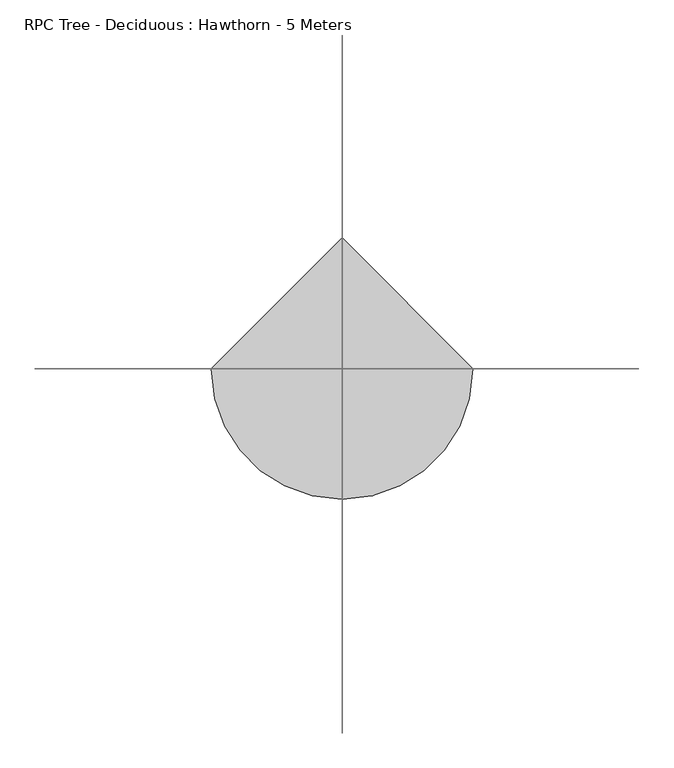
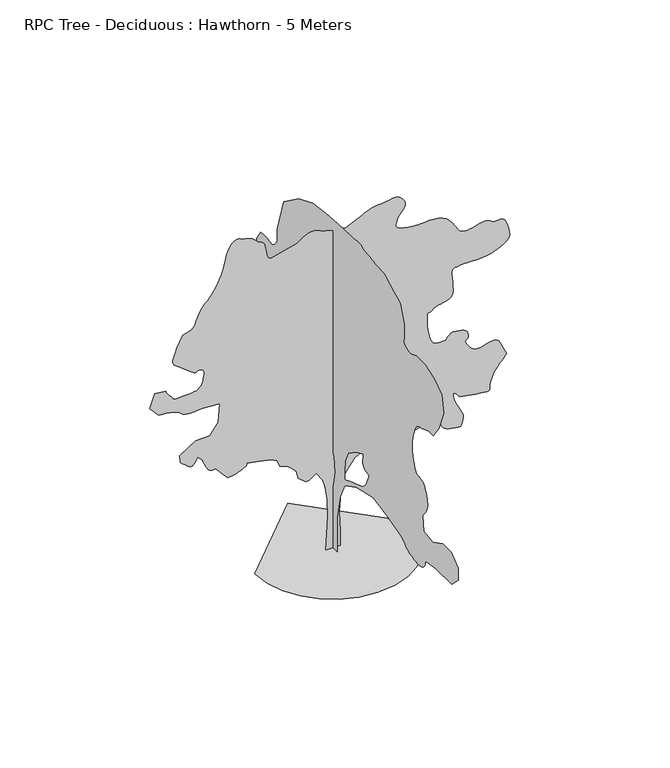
"""IFC4 building model written with IfcOpenShell, lengths in millimetres: geographic element geometry, RPC Tree - Deciduous : Hawthorn - 5 Meters."""

import ifcopenshell
import ifcopenshell.guid

model = None  # the IFC model being written
_history = None  # IfcOwnerHistory: only IFC2X3 demands one
_inside = {}  # id of a spatial element -> (the spatial element, [elements in it])
_under = {}  # id of a project, library or spatial element -> (it, [spatial elements below it])
_declared = {}  # id of a project -> (the project, [libraries it declares])
_typed = {}  # id of a type object -> (the type object, [elements of that type])
_made_of = {}  # id of a material, layer set ... -> (it, [elements and type objects made of it])


def new_model(schema):
    """Start an empty IFC model of exactly this schema.

    Asked for "IFC4X3", IfcOpenShell would pick the latest addendum, in which some entities
    have other attributes; the version numbers below select the first issue.
    IFC2X3 requires an IfcOwnerHistory on every rooted entity: one is made here for all.
    """
    global model, _history
    if schema == "IFC4X3":
        model = ifcopenshell.file(schema_version=(4, 3, 0, 0))
    else:
        model = ifcopenshell.file(schema=schema)
    _inside.clear()
    _under.clear()
    _declared.clear()
    _typed.clear()
    _made_of.clear()
    _history = None
    if model.schema == "IFC2X3":
        org = make("IfcOrganization", Name="unknown")
        user = make(
            "IfcPersonAndOrganization",
            ThePerson=make("IfcPerson", FamilyName="unknown"),
            TheOrganization=org,
        )
        app = make(
            "IfcApplication",
            ApplicationDeveloper=org,
            Version="unknown",
            ApplicationFullName="unknown",
            ApplicationIdentifier="unknown",
        )
        _history = make(
            "IfcOwnerHistory",
            OwningUser=user,
            OwningApplication=app,
            ChangeAction="ADDED",
            CreationDate=0,
        )
    return model


def make(cls, **values):
    """One entity of the class cls with the attributes given. An attribute that is None is left unset."""
    return model.create_entity(
        cls, **{name: value for name, value in values.items() if value is not None}
    )


def rooted(cls, **values):
    """An entity with a GlobalId (a new one), such as an element, a storey or a relation."""
    return make(cls, GlobalId=ifcopenshell.guid.new(), OwnerHistory=_history, **values)


def si_unit(unit_type, name, prefix=None):
    """IfcSIUnit, for example si_unit("LENGTHUNIT", "METRE", prefix="MILLI")."""
    return make("IfcSIUnit", UnitType=unit_type, Prefix=prefix, Name=name)


def assignment(units):
    """IfcUnitAssignment: the units of a project."""
    return None if units is None else make("IfcUnitAssignment", Units=units)


def point(xyz):
    """IfcCartesianPoint."""
    return None if xyz is None else make("IfcCartesianPoint", Coordinates=xyz)


def direction(xyz):
    """IfcDirection."""
    return None if xyz is None else make("IfcDirection", DirectionRatios=xyz)


def frame(location, z_axis=None, x_axis=None):
    """IfcAxis2Placement3D, a coordinate frame: its origin and axes. An axis left out is left unset."""
    return make(
        "IfcAxis2Placement3D",
        Location=point(location),
        Axis=direction(z_axis),
        RefDirection=direction(x_axis),
    )


def origin():
    """The frame at (0, 0, 0) with its axes left unset."""
    return frame((0.0, 0.0, 0.0))


def place(relative_to, where):
    """IfcLocalPlacement: puts the frame where relative to a parent placement (None: the world)."""
    return make(
        "IfcLocalPlacement", PlacementRelTo=relative_to, RelativePlacement=where
    )


def context(
    kind, dimensions, precision=None, world=None, true_north=None, identifier=None
):
    """IfcGeometricRepresentationContext, for example the 3D "Model" context."""
    return make(
        "IfcGeometricRepresentationContext",
        ContextIdentifier=identifier,
        ContextType=kind,
        CoordinateSpaceDimension=dimensions,
        Precision=precision,
        WorldCoordinateSystem=world,
        TrueNorth=true_north,
    )


def project(units=None, contexts=None):
    """IfcProject with its units and contexts."""
    return rooted(
        "IfcProject",
        Name="project",
        RepresentationContexts=contexts,
        UnitsInContext=assignment(units),
    )


def spatial(cls, under=None, at=None, **own):
    """A site, building, storey or space (cls), placed at a placement, below another one or the project."""
    s = rooted(cls, ObjectPlacement=at, **own)
    if under is not None:
        _under.setdefault(under.id(), (under, []))[1].append(s)
    return s


def point_list(points):
    """IfcCartesianPointList2D or 3D."""
    cls = (
        "IfcCartesianPointList2D" if len(points[0]) == 2 else "IfcCartesianPointList3D"
    )
    return make(cls, CoordList=points)


def triangles(points, corners, closed=None, point_numbers=None):
    """IfcTriangulatedFaceSet: each triangle names its three corners, points numbered from 1."""
    return make(
        "IfcTriangulatedFaceSet",
        Coordinates=point_list(points),
        Closed=closed,
        CoordIndex=corners,
        PnIndex=point_numbers,
    )


def shape(context_of_items, identifier, shape_type, items):
    """IfcShapeRepresentation: the items that make up one representation, for example the "Body"."""
    return make(
        "IfcShapeRepresentation",
        ContextOfItems=context_of_items,
        RepresentationIdentifier=identifier,
        RepresentationType=shape_type,
        Items=items,
    )


def source(mapping_origin, context_of_items, identifier, shape_type, items):
    """IfcRepresentationMap: a shape defined once, which mapped items show again and again."""
    return make(
        "IfcRepresentationMap",
        MappingOrigin=mapping_origin,
        MappedRepresentation=shape(context_of_items, identifier, shape_type, items),
    )


def transform(
    local_origin,
    x_axis=None,
    y_axis=None,
    z_axis=None,
    scale=None,
    scale2=None,
    scale3=None,
    uniform=True,
):
    """IfcCartesianTransformationOperator3D, or its non-uniform kind. x_axis, y_axis, z_axis: its Axis1, 2, 3."""
    if uniform:
        return make(
            "IfcCartesianTransformationOperator3D",
            Axis1=direction(x_axis),
            Axis2=direction(y_axis),
            LocalOrigin=point(local_origin),
            Scale=scale,
            Axis3=direction(z_axis),
        )
    return make(
        "IfcCartesianTransformationOperator3DnonUniform",
        Axis1=direction(x_axis),
        Axis2=direction(y_axis),
        LocalOrigin=point(local_origin),
        Scale=scale,
        Axis3=direction(z_axis),
        Scale2=scale2,
        Scale3=scale3,
    )


def mapped(mapping_source, mapping_target):
    """IfcMappedItem: shows the shape of a source again, moved by a transform."""
    return make(
        "IfcMappedItem", MappingSource=mapping_source, MappingTarget=mapping_target
    )


def made_of(thing, what):
    """Note that an element or type object is made of a material, layer set ...; save() writes the relation."""
    if what is not None:
        _made_of.setdefault(what.id(), (what, []))[1].append(thing)
    return thing


def element(
    cls,
    number,
    at=None,
    inside=None,
    cuts=None,
    type_object=None,
    material=None,
    context=None,
    identifier="Body",
    shape_type=None,
    held_by="IfcProductDefinitionShape",
    body=None,
    shapes=None,
    **own,
):
    """One element of the class cls, such as IfcWall. Its Tag is "e" and its number.

    at: its placement. inside: the storey or other place that contains it. cuts: it is an
    opening in that element (IfcRelVoidsElement). A single representation is given by context,
    identifier, shape_type and body (its items); several are given by shapes. held_by: the class
    of the entity that holds the representations. save() writes the other relations.
    """
    e = rooted(cls, Tag="e%d" % number, ObjectPlacement=at, **own)
    if body is not None:
        shapes = [shape(context, identifier, shape_type, body)]
    if shapes is not None:
        e.Representation = make(held_by, Representations=shapes)
    if inside is not None:
        _inside.setdefault(inside.id(), (inside, []))[1].append(e)
    if cuts is not None:
        rooted(
            "IfcRelVoidsElement", RelatingBuildingElement=cuts, RelatedOpeningElement=e
        )
    if type_object is not None:
        _typed.setdefault(type_object.id(), (type_object, []))[1].append(e)
    return made_of(e, material)


def aggregate(whole, parts):
    """IfcRelAggregates: a whole, such as a stair, and the parts it consists of."""
    return rooted("IfcRelAggregates", RelatingObject=whole, RelatedObjects=parts)


def save(model, path):
    """Write the relations noted so far, then the file.

    IfcRelAggregates (storeys below a building ...), IfcRelContainedInSpatialStructure (elements
    in a storey), IfcRelDefinesByType, IfcRelAssociatesMaterial and IfcRelDeclares: one each for
    every whole, place, type object, material and project.
    """
    for whole, parts in _under.values():
        aggregate(whole, parts)
    for where, things in _inside.values():
        rooted(
            "IfcRelContainedInSpatialStructure",
            RelatedElements=things,
            RelatingStructure=where,
        )
    for kind, things in _typed.values():
        rooted("IfcRelDefinesByType", RelatedObjects=things, RelatingType=kind)
    for what, things in _made_of.values():
        rooted("IfcRelAssociatesMaterial", RelatedObjects=things, RelatingMaterial=what)
    for by, libraries in _declared.values():
        rooted("IfcRelDeclares", RelatingContext=by, RelatedDefinitions=libraries)
    model.write(path)


def rpc_tree_deciduous_hawthorn_5_meters_4305f9dc(model_context):
    return source(origin(), model_context, "Body", "Tessellation", [
        triangles([(104.4180632, 0.000259, 0.0126693), (-101.1095624, 0.000259, 0.0126693), (-71.748096, 0.0002301, 484.4695201), (-79.0885864, 0.0002152, 734.0392794), (-108.4493942, 0.0002038, 924.8857698), (-137.8108651, 0.0001968, 1042.330636), (-233.2330929, 0.000189, 1174.4554928), (-328.6579914, 0.0001929, 1108.3922287), (-380.0396298, 0.0001933, 1101.0522697), (-482.8028704, 0.0001881, 1189.1354834), (-512.1644866, 0.0001811, 1306.5804222), (-614.9277271, 0.000175, 1409.3436264), (-739.7126249, 0.0001719, 1460.7252285), (-776.4142365, 0.0001667, 1548.8085148), (-857.1574911, 0.000164, 1592.8501579), (-1025.982288, 0.0001618, 1629.5516968), (-1194.8088289, 0.0001601, 1658.9116779), (-1193.4821657, 0.0001605, 1652.5566879), (-1193.6321566, 0.0001609, 1645.8150936), (-1196.7354555, 0.0001613, 1638.3033428), (-1204.2687893, 0.0001618, 1629.6367207), (-1217.7071405, 0.0001624, 1619.4283321), (-1238.5305061, 0.0001632, 1607.2950611), (-1268.2121246, 0.000164, 1592.8501579), (-1301.3170807, 0.0001649, 1578.8334263), (-1331.7269978, 0.0001655, 1567.8967392), (-1359.8886509, 0.000166, 1559.5300987), (-1386.2553555, 0.0001664, 1553.2168213), (-1411.2719971, 0.0001667, 1548.4451649), (-1435.3885483, 0.0001669, 1544.70019), (-1459.0586151, 0.0001671, 1541.4684105), (-1539.8017971, 0.0001618, 1629.5516968), (-1627.8850834, 0.0001557, 1732.314901), (-1645.1767605, 0.0001559, 1729.3649357), (-1662.4033253, 0.000156, 1727.5649002), (-1679.4983574, 0.000156, 1728.0815838), (-1696.414912, 0.0001557, 1732.0649162), (-1713.0649132, 0.0001552, 1740.6649727), (-1729.3816498, 0.0001544, 1755.0482517), (-1745.3315483, 0.0001531, 1776.3482597), (-1759.7815384, 0.0001516, 1800.6649441), (-1771.9149548, 0.0001503, 1823.4315777), (-1782.1149136, 0.000149, 1844.9148594), (-1790.7815357, 0.0001478, 1865.381488), (-1798.2982281, 0.0001466, 1885.0647343), (-1805.031538, 0.0001455, 1904.2481564), (-1811.3981552, 0.0001443, 1923.1647343), (-1877.4481934, 0.0001404, 1989.2313412), (-1921.4981209, 0.0001443, 1923.1647343), (-1929.4480717, 0.0001451, 1910.7647644), (-1937.9981312, 0.0001458, 1899.5314384), (-1947.6814064, 0.0001463, 1890.6148315), (-1959.1147202, 0.0001466, 1885.1481594), (-1972.8480389, 0.0001467, 1884.31478), (-1989.4813259, 0.0001464, 1889.2647686), (-2009.5814072, 0.0001457, 1901.1480549), (-2031.8479259, 0.0001447, 1917.9814751), (-2053.8813194, 0.0001436, 1936.1148159), (-2074.4812248, 0.0001425, 1954.1147346), (-2092.5312859, 0.0001415, 1970.564748), (-2106.8478539, 0.0001407, 1984.0646507), (-2116.2812897, 0.0001402, 1993.1979595), (-2119.6812275, 0.00014, 1996.5646145), (-2127.0145008, 0.0001338, 2099.3313068), (-1906.8147148, 0.0001255, 2238.797794), (-1708.6316082, 0.0001251, 2246.1310673), (-1591.1833992, 0.0001159, 2400.2809605), (-1569.1617783, 0.0001002, 2664.530674), (-1811.3981552, 9.88e-05, 2686.5473534), (-1863.1147659, 9.92e-05, 2680.4640038), (-1913.7481579, 9.95e-05, 2675.6805748), (-1962.1981075, 9.96e-05, 2673.4472809), (-2007.3813961, 9.95e-05, 2675.0806114), (-2048.1812313, 9.91e-05, 2681.8473495), (-2083.5312538, 9.83e-05, 2695.0305565), (-2112.3479542, 9.71e-05, 2715.9138748), (-2141.364497, 9.58e-05, 2738.2973923), (-2177.3144829, 9.47e-05, 2755.6640648), (-2219.0478367, 9.39e-05, 2768.8806999), (-2265.3977692, 9.33e-05, 2778.7472488), (-2315.2143505, 9.29e-05, 2786.0970909), (-2367.3476509, 9.26e-05, 2791.7973244), (-2420.6308811, 9.23e-05, 2796.647319), (-2545.4141075, 8.4e-05, 2936.1138062), (-2472.0142273, 7.26e-05, 3126.9634941), (-2325.2143215, 7.35e-05, 3112.2803787), (-2315.7310341, 7.45e-05, 3095.0137001), (-2305.9977619, 7.55e-05, 3077.9301498), (-2295.7476608, 7.65e-05, 3061.2468658), (-2284.714468, 7.75e-05, 3045.1304077), (-2272.6644768, 7.84e-05, 3029.7801819), (-2259.3311337, 7.92e-05, 3015.4136169), (-2244.4644539, 8e-05, 3002.1804131), (-2233.3144077, 8.08e-05, 2989.6971634), (-2228.0811516, 8.15e-05, 2977.8635834), (-2223.8644032, 8.21e-05, 2967.3136459), (-2215.7977444, 8.26e-05, 2958.6970207), (-2198.9977524, 8.3e-05, 2952.6470993), (-2168.5811497, 8.32e-05, 2949.7969826), (-2119.6812275, 8.31e-05, 2950.7972122), (-2065.4813381, 8.29e-05, 2953.94702), (-2021.2812744, 8.27e-05, 2957.0971184), (-1985.4314278, 8.25e-05, 2960.2303574), (-1956.2647488, 8.23e-05, 2963.3804558), (-1932.1147694, 8.22e-05, 2966.5302635), (-1911.281448, 8.2e-05, 2969.6803619), (-1892.1314541, 8.18e-05, 2972.8136009), (-1873.3814358, 8.09e-05, 2987.0470345), (-1855.4147999, 8.01e-05, 3001.7304405), (-1838.9815006, 7.91e-05, 3017.3137917), (-1824.8482063, 7.81e-05, 3034.230201), (-1813.8148682, 7.7e-05, 3052.9636505), (-1806.6148716, 7.58e-05, 3073.930394), (-1804.0481678, 7.43e-05, 3097.5969727), (-1801.4481812, 7.28e-05, 3123.8802521), (-1795.7482384, 7.11e-05, 3151.4468834), (-1790.1815723, 6.95e-05, 3178.8800926), (-1787.9648472, 6.8e-05, 3204.7802559), (-1792.2815895, 6.66e-05, 3227.7134491), (-1806.3648869, 6.55e-05, 3246.2969078), (-1833.4148346, 6.47e-05, 3259.0967079), (-1860.5482075, 6.45e-05, 3261.9633934), (-1877.0315037, 6.49e-05, 3255.9634689), (-1889.2647686, 6.54e-05, 3247.5299721), (-1903.6980446, 6.57e-05, 3243.0802437), (-1926.7148083, 6.53e-05, 3249.0301712), (-1964.764666, 6.4e-05, 3271.7968048), (-2024.2646679, 6.12e-05, 3317.8134727), (-2090.2812778, 5.82e-05, 3369.0632515), (-2143.4645142, 5.59e-05, 3406.9632637), (-2183.5478233, 5.41e-05, 3437.0300331), (-2210.2645065, 5.25e-05, 3464.7966522), (-2223.3811478, 5.06e-05, 3495.7465073), (-2222.6311935, 4.82e-05, 3535.4464096), (-2207.7645138, 4.5e-05, 3589.3963142), (-2186.5977825, 4.16e-05, 3647.1797058), (-2166.9812473, 3.87e-05, 3695.7130806), (-2148.6312046, 3.63e-05, 3736.546344), (-2131.3312431, 3.42e-05, 3771.2128326), (-2114.7812359, 3.24e-05, 3801.2630333), (-2098.7479122, 3.08e-05, 3828.2294106), (-2082.9812874, 2.93e-05, 3853.6461731), (-2053.214645, 2.89e-05, 3860.1129295), (-2024.1479599, 2.84e-05, 3867.5961937), (-1996.4980488, 2.79e-05, 3877.1461922), (-1970.9647236, 2.71e-05, 3889.7794327), (-1948.264801, 2.61e-05, 3906.5127136), (-1929.098093, 2.48e-05, 3928.3794022), (-1914.1481335, 2.32e-05, 3956.4128654), (-1903.4980568, 2.15e-05, 3984.7125916), (-1895.4148293, 2.01e-05, 4008.3794609), (-1887.9648479, 1.88e-05, 4029.995874), (-1879.2315147, 1.74e-05, 4052.1125473), (-1867.2815174, 1.59e-05, 4077.3293221), (-1850.2148266, 1.41e-05, 4108.1791832), (-1826.0648472, 1.18e-05, 4147.2625534), (-1800.8982147, 9.7e-06, 4182.9292717), (-1780.2315983, 8.3e-06, 4206.1624466), (-1761.364872, 7.2e-06, 4223.3457001), (-1741.5816319, 6.2e-06, 4240.9123604), (-1718.2148895, 4.7e-06, 4265.279187), (-1688.5483864, 2.5e-06, 4302.8789268), (-1649.9049603, -9e-07, 4360.1289207), (-1610.1434338, -4.9e-06, 4426.8123505), (-1578.0868149, -8.6e-06, 4489.1288956), (-1552.4484089, -1.21e-05, 4548.1122139), (-1531.9467533, -1.55e-05, 4604.7788132), (-1515.2968975, -1.88e-05, 4660.1620605), (-1501.2167976, -2.21e-05, 4715.2953232), (-1488.4184509, -2.54e-05, 4771.17854), (-1472.818531, -2.88e-05, 4827.2951729), (-1451.6968552, -3.19e-05, 4880.328273), (-1425.8235798, -3.47e-05, 4927.1951797), (-1395.9703148, -3.7e-05, 4964.8114883), (-1362.906926, -3.85e-05, 4990.1116882), (-1327.4053139, -3.9e-05, 4999.9948059), (-1290.2320015, -3.85e-05, 4991.3953308), (-1253.3604149, -3.76e-05, 4975.6619888), (-1218.1554417, -3.69e-05, 4964.4283722), (-1184.4938335, -3.64e-05, 4954.9952271), (-1152.2438398, -3.58e-05, 4944.6615555), (-1121.277198, -3.49e-05, 4930.728685), (-1091.4672443, -3.37e-05, 4910.4950363), (-1062.6839722, -3.2e-05, 4881.2950745), (-1036.1256369, -3.04e-05, 4855.0452232), (-1012.9073593, -2.96e-05, 4841.2617622), (-992.768981, -2.91e-05, 4833.5285133), (-975.4573923, -2.86e-05, 4825.3952888), (-960.7123621, -2.78e-05, 4810.461898), (-948.2790367, -2.61e-05, 4782.2953033), (-937.8990744, -2.32e-05, 4734.4787453), (-929.1257727, -2e-05, 4680.0454399), (-920.7374039, -1.74e-05, 4635.9955124), (-911.3207548, -1.53e-05, 4601.9786934), (-899.4658098, -1.39e-05, 4577.5787292), (-883.7574663, -1.3e-05, 4562.4287819), (-862.7857813, -1.26e-05, 4556.1288757), (-835.1358702, -1.27e-05, 4558.3121727), (-497.484496, -1.8e-05, 4646.395459), (-458.1495423, -1.96e-05, 4674.3954941), (-418.7529282, -2.12e-05, 4700.4619263), (-379.2263074, -2.25e-05, 4722.6620247), (-339.5079832, -2.35e-05, 4739.1118927), (-299.5313717, -2.4e-05, 4747.8285118), (-259.2347398, -2.4e-05, 4746.9454262), (-218.5531205, -2.32e-05, 4734.4787453), (-178.2998181, -2.22e-05, 4717.1120728), (-139.2015324, -2.13e-05, 4702.4286667), (-101.0663964, -2.06e-05, 4689.995414), (-63.7017712, -1.99e-05, 4679.3620514), (-26.9148066, -1.94e-05, 4670.0620377), (9.4867904, -1.89e-05, 4661.6788284), (45.6957891, -1.84e-05, 4653.7453011), (177.8214861, -1.75e-05, 4639.0621857), (383.3479671, -2.28e-05, 4727.1451813), (413.3512593, -2.39e-05, 4745.8951996), (444.0612308, -2.5e-05, 4763.8618355), (476.1828529, -2.6e-05, 4780.2951347), (510.4228415, -2.68e-05, 4794.4285744), (547.4878029, -2.75e-05, 4805.4619125), (588.0844165, -2.79e-05, 4812.6617638), (632.9176901, -2.8e-05, 4815.2284676), (681.5809988, -2.82e-05, 4818.6951164), (731.9142637, -2.87e-05, 4826.7786346), (781.9908583, -2.93e-05, 4836.0286514), (829.8841558, -2.97e-05, 4842.9619492), (873.6691286, -2.98e-05, 4844.111879), (911.4190773, -2.93e-05, 4836.0286514), (941.2090467, -2.8e-05, 4815.2284676), (964.4490526, -2.64e-05, 4788.1286682), (983.3239906, -2.49e-05, 4762.9618904), (997.0623236, -2.35e-05, 4738.9619019), (1004.895639, -2.21e-05, 4715.3287514), (1006.0506557, -2.07e-05, 4691.3119034), (999.759034, -1.92e-05, 4666.1454163), (985.2490185, -1.75e-05, 4639.0621857), (967.2740255, -1.61e-05, 4614.4119461), (951.0957253, -1.49e-05, 4595.5287964), (936.714045, -1.4e-05, 4580.1288643), (924.1307287, -1.32e-05, 4565.878862), (913.3457766, -1.23e-05, 4550.4620705), (904.3574444, -1.11e-05, 4531.5954895), (897.1658049, -9.7e-06, 4506.9289719), (889.5907585, -8.1e-06, 4480.3288513), (881.5024441, -6.7e-06, 4456.8122635), (875.9808334, -5.4e-06, 4435.8623795), (876.109096, -4.3e-06, 4416.9623703), (884.9690929, -3.3e-06, 4399.6122665), (905.6407963, -2.3e-06, 4383.2789612), (941.2090467, -1.3e-06, 4367.4621941), (985.9340057, -5e-07, 4353.8790115), (1031.1739769, 0.0, 4344.145594), (1075.6439369, 4e-07, 4337.6122719), (1118.0588625, 7e-07, 4333.6622223), (1157.1355471, 8e-07, 4331.6289162), (1191.5904934, 8e-07, 4330.8789619), (1220.1387508, 8e-07, 4330.7623993), (1252.3888172, 7e-07, 4332.5457207), (1296.5804512, 5e-07, 4335.9958008), (1349.373595, 4e-07, 4338.2790916), (1407.4319698, 5e-07, 4336.5957642), (1467.4168259, 1e-06, 4328.0957016), (1525.9885414, 2.1e-06, 4309.9625061), (1579.8117096, 3.9e-06, 4279.3791985), (1624.7083878, 6.3e-06, 4238.9624794), (1660.3617348, 8.9e-06, 4195.0625427), (1689.2150608, 1.16e-05, 4150.5292145), (1713.6983047, 1.41e-05, 4108.1791832), (1736.2482365, 1.63e-05, 4070.8459969), (1759.3148518, 1.81e-05, 4041.3291939), (1785.3315777, 1.92e-05, 4022.4794724), (1814.5148254, 1.98e-05, 4013.0960335), (1845.2148411, 2e-05, 4009.512822), (1877.2147774, 1.99e-05, 4010.7293175), (1910.2313667, 1.96e-05, 4015.7961594), (1944.0147697, 1.91e-05, 4023.7625336), (1978.3314251, 1.85e-05, 4033.6459419), (2012.8813511, 1.79e-05, 4044.4958611), (2044.2646099, 1.75e-05, 4050.5960701), (2075.1146164, 1.72e-05, 4055.5460587), (2104.9479698, 1.71e-05, 4058.1793282), (2133.2478413, 1.71e-05, 4057.3459488), (2159.4811237, 1.75e-05, 4051.879422), (2183.1478477, 1.81e-05, 4040.646096), (2203.7311844, 1.92e-05, 4022.4794724), (2226.6810917, 2e-05, 4009.1459839), (2256.0310444, 2.01e-05, 4008.3960297), (2289.2477669, 1.98e-05, 4013.0460365), (2323.7476959, 1.96e-05, 4015.8792938), (2356.9642731, 2e-05, 4009.7459473), (2386.3143711, 2.13e-05, 3987.4292862), (2409.2642784, 2.4e-05, 3941.7294594), (2427.3476223, 2.74e-05, 3884.6628845), (2442.4808556, 3.05e-05, 3832.9794113), (2452.5976799, 3.33e-05, 3786.6961899), (2455.6643532, 3.57e-05, 3745.7963608), (2449.5975723, 3.78e-05, 3710.2962021), (2432.3808907, 3.96e-05, 3680.1797264), (2401.914291, 4.11e-05, 3655.4629211), (2365.5143326, 4.24e-05, 3633.5465263), (2330.0143192, 4.37e-05, 3612.2798012), (2292.7144157, 4.49e-05, 3592.2964279), (2250.9144962, 4.59e-05, 3574.2297981), (2201.9311489, 4.69e-05, 3558.7298721), (2143.0645386, 4.76e-05, 3546.4466103), (2071.6145393, 4.81e-05, 3538.0131134), (2001.7647331, 4.83e-05, 3533.7630821), (1946.9314522, 4.84e-05, 3532.7131462), (1903.2815002, 4.84e-05, 3533.5965225), (1866.9315388, 4.83e-05, 3535.1132904), (1834.0647949, 4.82e-05, 3535.9798073), (1800.8149349, 4.83e-05, 3534.9298714), (1763.3148983, 4.85e-05, 3530.6798401), (1727.1649246, 4.88e-05, 3526.1632553), (1699.7649982, 4.9e-05, 3523.3131386), (1679.9150471, 4.92e-05, 3519.313092), (1666.5033657, 4.97e-05, 3511.3298584), (1658.3500843, 5.06e-05, 3496.5464584), (1654.3049824, 5.2e-05, 3472.1299255), (1653.2133339, 5.42e-05, 3435.2632805), (1656.166642, 5.72e-05, 3385.713398), (1662.4584091, 6.06e-05, 3328.3468414), (1668.2317486, 6.42e-05, 3267.8801834), (1669.6483772, 6.77e-05, 3209.0968529), (1662.8434147, 7.08e-05, 3156.7302818), (1643.968404, 7.33e-05, 3115.5301804), (1609.1716908, 7.48e-05, 3090.2636993), (1566.9068287, 7.56e-05, 3076.9302109), (1528.1084702, 7.62e-05, 3067.197084), (1492.6485706, 7.66e-05, 3059.2469879), (1460.3985043, 7.71e-05, 3051.3137512), (1431.2302265, 7.77e-05, 3041.5803337), (1405.0136581, 7.85e-05, 3028.2471359), (1381.6236614, 7.96e-05, 3009.5136864), (1361.3786762, 8.05e-05, 2994.8971367), (1344.6019386, 8.07e-05, 2990.5636803), (1331.1620613, 8.08e-05, 2989.680304), (1320.9337612, 8.1e-05, 2985.4637009), (1313.7853603, 8.19e-05, 2971.1137047), (1309.5904129, 8.37e-05, 2939.7970116), (1308.2204384, 8.7e-05, 2884.7306053), (1311.2170578, 9.12e-05, 2814.3139732), (1319.6069527, 9.54e-05, 2743.7473503), (1332.4887245, 9.94e-05, 2676.5308136), (1348.9669338, 0.000103, 2616.1141525), (1368.1419262, 0.000106, 2565.9808754), (1389.1136112, 0.0001082, 2529.5807716), (1410.9852413, 0.0001093, 2510.3807808), (1436.1085625, 0.0001098, 2503.0475075), (1465.4701424, 0.00011, 2499.2974457), (1496.1152195, 0.0001101, 2498.2475098), (1525.0917938, 0.00011, 2498.997464), (1549.4435051, 0.0001099, 2500.647654), (1566.2218414, 0.0001098, 2502.2975533), (1572.4717506, 0.0001098, 2503.0475075), (1574.8034397, 0.0001094, 2508.6643158), (1582.1433987, 0.0001086, 2522.8974586), (1595.0051136, 0.0001075, 2541.7474709), (1613.9017799, 0.0001063, 2561.2474434), (1639.3467384, 0.0001053, 2577.4141891), (1671.8483883, 0.0001048, 2586.2473709), (1711.9316975, 0.000105, 2583.780661), (1753.2649303, 0.0001055, 2575.3474548), (1789.0649254, 0.0001059, 2567.564209), (1819.2148293, 0.0001065, 2558.3641891), (1843.5815105, 0.0001072, 2545.6975204), (1862.06483, 0.0001083, 2527.4974686), (1874.4980827, 0.0001099, 2501.7307274), (1880.7648514, 0.000112, 2466.347422), (1878.4148495, 0.0001139, 2434.3476311), (1868.2147453, 0.000115, 2416.2142902), (1854.9481133, 0.0001156, 2406.0643284), (1843.3482399, 0.000116, 2397.9476727), (1838.1815495, 0.0001168, 2385.9809612), (1844.1649052, 0.0001181, 2364.2642635), (1866.0814453, 0.0001203, 2326.8810802), (1895.8980846, 0.0001227, 2286.5143581), (1922.9980293, 0.0001244, 2258.3477634), (1948.314798, 0.0001254, 2240.1977085), (1972.748045, 0.0001261, 2229.8977558), (1997.1647232, 0.0001263, 2225.2311802), (2022.4813465, 0.0001264, 2224.0311081), (2049.5812912, 0.0001264, 2224.1143879), (2083.1645611, 0.000126, 2230.5311474), (2124.9646259, 0.0001252, 2244.9144264), (2171.4978321, 0.0001243, 2259.931097), (2219.3311043, 0.0001238, 2268.2810234), (2264.9810795, 0.0001241, 2262.6310776), (2304.9811089, 0.0001257, 2235.6644096), (2335.8643982, 0.000129, 2180.0644604), (2360.2309341, 0.0001327, 2118.5645805), (2381.6476501, 0.0001353, 2075.4313122), (2398.0642353, 0.000137, 2045.6312416), (2407.414246, 0.0001383, 2024.1979568), (2407.6642307, 0.0001394, 2006.0813301), (2396.7143177, 0.0001406, 1986.3146587), (2372.5643383, 0.0001422, 1959.8646744), (2344.1643276, 0.0001439, 1930.6981407), (2321.3144142, 0.0001454, 1905.664785), (2303.0476513, 0.0001468, 1884.0647953), (2288.4643845, 0.000148, 1865.2147831), (2276.6478092, 0.0001491, 1848.4315052), (2266.6811211, 0.0001501, 1833.0315731), (2257.6310921, 0.0001511, 1818.2981701), (2255.3810841, 0.0001509, 1819.9149319), (2252.3144108, 0.0001509, 1818.9815586), (2247.6311211, 0.0001511, 1813.014917), (2240.5144043, 0.0001518, 1799.4815861), (2230.1477406, 0.0001532, 1775.864859), (2215.6977505, 0.0001553, 1739.6316055), (2196.3977657, 0.0001583, 1688.2816875), (2181.8477818, 0.0001615, 1635.8649742), (2177.9478745, 0.0001638, 1597.0650169), (2178.281139, 0.0001654, 1570.2083714), (2176.4478207, 0.0001664, 1553.6234825), (2165.9978771, 0.0001668, 1545.6418476), (2140.531263, 0.0001669, 1544.5917664), (2093.6312187, 0.0001667, 1548.8085148), (2036.4313671, 0.0001663, 1555.3134956), (1983.8480942, 0.0001659, 1562.2050808), (1935.1147316, 0.0001654, 1569.4167046), (1889.4647564, 0.000165, 1576.885144), (1846.1315002, 0.0001645, 1584.5467403), (1804.3481495, 0.0001641, 1592.3368172), (1763.3148983, 0.0001636, 1600.1901169), (1736.9149109, 0.0001617, 1632.5050049), (1712.4982327, 0.00016, 1660.5166672), (1692.0483181, 0.0001588, 1679.9316158), (1677.5816139, 0.0001585, 1686.4316551), (1671.08172, 0.0001591, 1675.7317268), (1674.5316547, 0.000161, 1643.5249718), (1689.9150181, 0.0001645, 1585.5100536), (1714.5316841, 0.0001685, 1518.2701172), (1742.0816013, 0.0001719, 1460.1469208), (1769.2649712, 0.000175, 1409.4719616), (1792.7148479, 0.0001776, 1364.5736847), (1809.1148643, 0.0001801, 1323.7853313), (1815.0982201, 0.0001824, 1285.4370907), (1807.3648258, 0.0001846, 1247.8571171), (1795.8649464, 0.0001866, 1214.4954906), (1790.0315815, 0.0001881, 1189.4771776), (1785.5982765, 0.0001891, 1172.1655163), (1778.348283, 0.0001897, 1161.9138165), (1764.0315697, 0.0001899, 1158.0838177), (1738.4149647, 0.0001898, 1160.0305012), (1697.2482914, 0.0001894, 1167.1138624), (1651.2449947, 0.0001889, 1176.2738411), (1613.195137, 0.0001883, 1185.562155), (1582.0784317, 0.0001877, 1196.0054855), (1556.8700867, 0.0001869, 1208.6304417), (1536.5400776, 0.000186, 1224.4671204), (1520.0618683, 0.0001848, 1244.5404591), (1506.4084866, 0.0001833, 1269.878738), (1497.783577, 0.0001817, 1297.2070118), (1494.9385471, 0.0001802, 1322.2236534), (1494.6602211, 0.0001788, 1344.4153221), (1493.7402191, 0.0001777, 1363.2686771), (1488.9668186, 0.0001768, 1378.2702324), (1477.1335293, 0.0001762, 1388.9053391), (1455.0268845, 0.0001758, 1394.6635632), (1428.8536274, 0.0001757, 1397.1668987), (1406.5336235, 0.0001756, 1398.5152176), (1387.4235981, 0.0001756, 1398.9002232), (1370.8802765, 0.0001756, 1398.5152176), (1356.2653255, 0.0001757, 1397.5519043), (1342.9319824, 0.0001758, 1396.2035854), (1330.2420593, 0.0001758, 1394.6635632), (1154.0754868, 0.0001798, 1328.6002991), (1036.6306206, 0.000175, 1409.3436264), (906.1107531, 0.0001774, 1361.8487057), (925.7574463, 0.0001782, 1349.935334), (942.6574322, 0.000179, 1337.6070168), (954.064076, 0.0001799, 1324.4486629), (957.2307432, 0.0001808, 1310.0437283), (949.4107264, 0.0001818, 1293.9771217), (927.8590622, 0.0001829, 1275.8337524), (889.8274446, 0.0001842, 1255.197076), (848.7391823, 0.0001852, 1237.0938206), (817.279184, 0.0001859, 1226.3071243), (791.5992107, 0.0001861, 1222.0704643), (767.8459368, 0.000186, 1223.6104866), (742.1659636, 0.0001856, 1230.1603775), (710.7076366, 0.000185, 1240.945475), (669.6193016, 0.0001842, 1255.197076), (478.7711761, 0.0001807, 1313.9203812), (302.6046943, 0.0001863, 1218.4971359), (170.4798376, 0.0001968, 1042.330636), (126.4390392, 0.0002043, 917.5457382), (111.7580585, 0.0002135, 763.4009319), (89.7377456, 0.0002288, 506.4911774), (104.4180632, 0.0002472, 198.1998025), (-8.07e-05, -103.3387323, 0.010537), (-8.07e-05, 109.5307235, 0.0105497), (-6.64e-05, 116.6263842, 461.2278791), (-5.69e-05, 152.1045148, 695.3842987), (-4.75e-05, 265.6347307, 929.5407183), (-4.27e-05, 372.0696221, 1085.6439079), (-3.8e-05, 556.5561084, 1213.3654724), (-2.85e-05, 875.8607826, 1355.2786125), (-1.9e-05, 1251.930415, 1397.851886), (-1.9e-05, 1471.8951862, 1263.0354057), (-1.9e-05, 1635.0951084, 1241.748769), (-1.42e-05, 1727.3316296, 1419.1402668), (-9.5e-06, 1876.3481152, 1440.4269035), (-4.7e-06, 2188.5478088, 1461.7135403), (0.0, 2373.0475937, 1475.9052612), (4.7e-06, 2465.2809174, 1546.8618313), (4.7e-06, 2458.1976288, 1660.3916748), (9.5e-06, 2571.7142464, 1731.3482449), (9.5e-06, 2603.4806213, 1737.5148743), (9.5e-06, 2634.1807823, 1744.1816185), (9.5e-06, 2662.7639214, 1751.8315876), (1.42e-05, 2688.1806839, 1760.9648964), (1.42e-05, 2709.3974121, 1772.0982285), (1.42e-05, 2725.3138824, 1785.7148392), (1.42e-05, 2734.9138779, 1802.2982746), (1.42e-05, 2740.5806831, 1822.1982227), (1.42e-05, 2745.5138123, 1845.0815643), (1.42e-05, 2749.8138405, 1870.4481846), (1.9e-05, 2753.6138992, 1897.798114), (1.9e-05, 2757.0471199, 1926.6313831), (1.9e-05, 2760.2472153, 1956.4647366), (1.9e-05, 2763.2973198, 1986.7980595), (2.37e-05, 2642.6808449, 2135.797831), (1.9e-05, 2380.1310276, 2149.9978363), (1.42e-05, 2224.0311081, 2036.46465), (1.42e-05, 2214.4978237, 2034.5813347), (1.42e-05, 2189.4478992, 2030.0813187), (1.42e-05, 2154.2145847, 2024.7313545), (9.5e-06, 2114.1478443, 2020.2480526), (9.5e-06, 2074.56465, 2018.364592), (9.5e-06, 2040.8312439, 2020.8147331), (9.5e-06, 2018.2645981, 2029.3646473), (9.5e-06, 2002.8479519, 2043.7979233), (9.5e-06, 1987.0647583, 2062.3479538), (9.5e-06, 1970.9647236, 2084.281208), (9.5e-06, 1954.6314182, 2108.9645851), (1.42e-05, 1938.0981251, 2135.6978371), (1.42e-05, 1921.4481239, 2163.7978661), (1.42e-05, 1904.7314117, 2192.5644241), (1.9e-05, 1869.2481125, 2369.9643517), (2.37e-05, 2018.2645981, 2483.4809692), (3.32e-05, 2131.7979298, 2675.0640427), (3.32e-05, 1947.2979996, 2845.3638222), (2.85e-05, 1755.7149261, 2781.4973717), (2.37e-05, 1635.0951084, 2682.1639), (2.37e-05, 1500.2768841, 2774.4137924), (2.85e-05, 1500.2768841, 2930.5138573), (3.8e-05, 1627.9984486, 3072.4301949), (3.8e-05, 1655.2850098, 3087.6135704), (3.8e-05, 1682.0816299, 3102.6635239), (3.8e-05, 1707.8649399, 3117.480352), (3.8e-05, 1732.1816242, 3131.9134827), (3.8e-05, 1754.4982853, 3145.8635033), (4.27e-05, 1774.3315224, 3159.1801323), (4.27e-05, 1791.1982254, 3171.7633759), (4.27e-05, 1804.3315807, 3189.3134674), (4.27e-05, 1813.7481571, 3216.5301201), (4.27e-05, 1820.0649227, 3251.8300003), (4.75e-05, 1823.8815502, 3293.5634995), (4.75e-05, 1825.8481453, 3340.1632713), (4.75e-05, 1826.5815308, 3389.9634293), (4.75e-05, 1826.6815247, 3441.396627), (5.22e-05, 1734.4316322, 3583.3132553), (5.22e-05, 1731.0982601, 3584.0797783), (5.22e-05, 1721.6982525, 3585.9630936), (5.22e-05, 1707.0649887, 3588.3463783), (5.22e-05, 1688.0982685, 3590.5965317), (5.22e-05, 1665.6500748, 3592.0964401), (5.22e-05, 1640.5966621, 3592.246431), (5.22e-05, 1613.8083263, 3590.4131126), (5.22e-05, 1585.343494, 3586.2965034), (4.75e-05, 1555.5117393, 3580.9296799), (4.75e-05, 1525.5568817, 3575.6965691), (4.75e-05, 1496.7201244, 3571.9465073), (4.75e-05, 1470.2402, 3571.063131), (4.75e-05, 1447.3602013, 3574.3963577), (4.75e-05, 1429.3219128, 3583.3132553), (4.75e-05, 1414.7369019, 3596.0964867), (4.75e-05, 1401.270282, 3609.9965103), (4.75e-05, 1388.7336926, 3624.8296165), (4.75e-05, 1376.9419704, 3640.4129677), (4.75e-05, 1365.7086445, 3656.5462852), (4.75e-05, 1354.8469528, 3673.0464409), (4.75e-05, 1344.1736217, 3689.7462936), (5.69e-05, 1337.0769619, 3867.1293617), (6.64e-05, 1188.0688334, 4363.8289856), (7.12e-05, 826.1908493, 4626.3786575), (7.12e-05, 485.599502, 4768.278717), (6.64e-05, 173.3914876, 4810.8618736), (6.17e-05, -131.7212023, 4832.1451675), (5.69e-05, -429.7379045, 4846.3451729), (5.69e-05, -455.8662151, 4847.8285126), (5.69e-05, -494.5295165, 4851.2951614), (5.69e-05, -540.8894774, 4855.2786392), (5.69e-05, -590.104424, 4858.2453186), (5.69e-05, -637.3326822, 4858.7452881), (5.22e-05, -677.7343586, 4855.2786392), (5.22e-05, -706.4693052, 4846.3451729), (5.22e-05, -736.0309456, 4834.9952843), (5.22e-05, -778.7491957, 4825.1618729), (5.22e-05, -829.5358486, 4816.5452477), (5.22e-05, -883.3008081, 4808.9285614), (4.75e-05, -934.955722, 4802.0618294), (4.75e-05, -979.4123835, 4795.6953575), (4.75e-05, -1011.5806961, 4789.5785797), (4.75e-05, -1041.0806396, 4785.3451172), (4.75e-05, -1079.0206203, 4783.6117928), (4.75e-05, -1122.5455799, 4782.4952911), (4.27e-05, -1168.8022041, 4780.1451439), (4.27e-05, -1214.9337633, 4774.6786171), (4.27e-05, -1258.0870159, 4764.2452423), (4.27e-05, -1295.4069763, 4746.9954231), (4.27e-05, -1331.5470669, 4725.0953064), (3.8e-05, -1372.528577, 4702.0621193), (3.8e-05, -1417.5435619, 4678.1121277), (3.8e-05, -1465.7852394, 4653.4121819), (3.32e-05, -1516.4484261, 4628.1454102), (3.32e-05, -1568.7234329, 4602.5120911), (3.32e-05, -1621.8066753, 4576.6953529), (2.37e-05, -1721.1482861, 4328.3622551), (1.42e-05, -1714.0482834, 4101.2958824), (1.42e-05, -1708.2316326, 4090.5959541), (1.42e-05, -1704.0315983, 4079.5960442), (1.42e-05, -1703.0649422, 4067.9627426), (1.42e-05, -1706.931712, 4055.4126366), (1.42e-05, -1717.2649475, 4041.6126068), (1.42e-05, -1735.6482731, 4026.2626717), (1.42e-05, -1763.7148739, 4009.04599), (1.42e-05, -1797.3815689, 3995.3628136), (9.5e-06, -1831.4148113, 3989.8459991), (9.5e-06, -1865.7481808, 3991.179348), (9.5e-06, -1900.3313896, 3997.9626549), (9.5e-06, -1935.1147316, 4008.8460022), (9.5e-06, -1970.0147816, 4022.4626129), (9.5e-06, -2004.9646832, 4037.4294319), (4.7e-06, -2224.9310532, 4037.4294319), (0.0, -2444.8975685, 3966.4794022), (-4.7e-06, -2622.297496, 3838.7627792), (-1.42e-05, -2664.8640839, 3590.4131126), (-1.9e-05, -2544.2476089, 3292.3967102), (-2.37e-05, -2416.5142719, 3114.9967827), (-2.37e-05, -2393.5309364, 3114.88022), (-2.37e-05, -2369.497665, 3114.0137032), (-2.37e-05, -2343.3476624, 3111.6469872), (-2.37e-05, -2314.0309925, 3107.063546), (-2.37e-05, -2280.4977196, 3099.4802879), (-2.37e-05, -2241.6977623, 3088.196965), (-1.9e-05, -2196.5477566, 3072.4301949), (-1.9e-05, -2151.2644741, 3057.24711), (-1.9e-05, -2112.314526, 3046.5303223), (-1.9e-05, -2079.064666, 3037.7968437), (-1.9e-05, -2050.91464, 3028.5636864), (-1.9e-05, -2027.2313473, 3016.363559), (-1.9e-05, -2007.3979649, 2998.6969048), (-1.9e-05, -1990.7813919, 2973.0804451), (-2.37e-05, -1974.5146523, 2936.3303627), (-2.37e-05, -1957.1481251, 2889.2637589), (-2.37e-05, -1940.1314312, 2835.4972733), (-2.37e-05, -1924.9980526, 2778.6306862), (-2.85e-05, -1913.1980461, 2722.2640686), (-2.85e-05, -1906.2481796, 2669.980632), (-2.85e-05, -1905.6315022, 2625.3973068), (-3.32e-05, -1911.5314327, 2579.7974739), (-3.32e-05, -1922.3814972, 2525.6475815), (-3.32e-05, -1937.0980408, 2468.2641655), (-3.8e-05, -1954.5314243, 2412.980912), (-3.8e-05, -1973.5814243, 2365.1643539), (-4.27e-05, -1993.1313938, 2330.1143131), (-4.27e-05, -2012.0646858, 2313.1977585), (-4.27e-05, -2034.6146175, 2308.4810406), (-4.27e-05, -2063.8645763, 2304.9976776), (-4.27e-05, -2096.9645908, 2300.5310898), (-4.27e-05, -2131.0645443, 2292.8311237), (-4.27e-05, -2163.2811825, 2279.6810543), (-4.75e-05, -2190.7978168, 2258.8311642), (-4.75e-05, -2210.7477619, 2228.0477234), (-4.75e-05, -2226.2144051, 2192.3644363), (-4.75e-05, -2241.5644855, 2158.0312122), (-5.22e-05, -2255.7977737, 2124.7144958), (-5.22e-05, -2267.9310448, 2091.9978882), (-5.22e-05, -2276.9477909, 2059.5479794), (-5.22e-05, -2281.8643513, 2026.9646484), (-5.69e-05, -2281.6977917, 1993.881348), (-5.69e-05, -2275.9644207, 1961.4647221), (-5.69e-05, -2265.3977692, 1930.9146973), (-5.69e-05, -2250.7977882, 1901.9147232), (-5.69e-05, -2232.9644291, 1874.1481041), (-5.69e-05, -2212.7145023, 1847.3148582), (-5.69e-05, -2190.8478138, 1821.1148586), (-5.69e-05, -2168.16446, 1795.2148407), (-6.64e-05, -2182.3644653, 1568.148468), (-7.12e-05, -2409.4309834, 1539.7651714), (-7.12e-05, -2643.5807899, 1660.3916748), (-7.12e-05, -2849.3473, 1660.3916748), (-8.07e-05, -3012.5469315, 1525.5751945), (-8.54e-05, -3019.6470795, 1355.2786125), (-8.54e-05, -2856.4471573, 1199.1754955), (-8.07e-05, -2473.2810104, 1192.0788357), (-8.07e-05, -2232.0310558, 1156.6005507), (-8.07e-05, -2225.6477245, 1126.3772501), (-8.07e-05, -2217.381078, 1097.2705965), (-8.07e-05, -2205.4145119, 1070.3989082), (-8.07e-05, -2187.8478516, 1046.8773062), (-8.07e-05, -2162.8312099, 1027.8239634), (-8.07e-05, -2128.5145546, 1014.3573435), (-8.07e-05, -2083.0312843, 1007.5923494), (-8.07e-05, -2034.2479248, 1006.5990234), (-8.07e-05, -1990.7979607, 1009.2056957), (-8.07e-05, -1951.9480064, 1014.6673536), (-7.59e-05, -1916.9481079, 1022.2389845), (-7.59e-05, -1885.0481655, 1031.1756483), (-7.59e-05, -1855.5147938, 1040.7323324), (-7.59e-05, -1827.5814697, 1050.1656229), (-7.59e-05, -1799.0481823, 1063.1989117), (-7.59e-05, -1768.7815704, 1082.3139513), (-7.12e-05, -1737.6482964, 1104.9039242), (-7.12e-05, -1706.5150223, 1128.3639021), (-7.12e-05, -1676.2482651, 1150.0838699), (-7.12e-05, -1647.7283489, 1167.4621696), (-7.12e-05, -1621.8066753, 1177.8871874), (-6.17e-05, -1288.3120605, 1270.1320656), (-5.69e-05, -976.1023384, 1326.89706), (-5.22e-05, -557.4594326, 1227.557048), (-5.22e-05, -280.7297214, 1078.5489195), (-5.69e-05, -174.29483, 858.5841482), (-6.64e-05, -103.3387323, 517.9928372), (-7.59e-05, -103.3387323, 234.1664299), (4.7e-06, 230.1564457, 1426.2351826), (4.7e-06, 251.4430824, 1305.6086792), (0.0, 230.1564457, 1149.5055622), (-9.5e-06, 145.0088541, 993.4007011), (-1.42e-05, 45.6699549, 773.4359299), (-1.42e-05, -18.1909818, 943.7306952), (-4.7e-06, -53.6691124, 1142.4089024), (0.0, -32.382135, 1355.2786125), (4.7e-06, 45.6699549, 1518.4785347), (9.5e-06, 116.6263842, 1575.2433838), (-2.37e-05, -727.755942, 1816.4981346), (-2.37e-05, -564.5560925, 1745.5315361), (-2.37e-05, -372.9729464, 1617.8184013), (-2.85e-05, -302.0163581, 1461.7135403), (-3.32e-05, -287.8247098, 1298.5137634), (-3.8e-05, -287.8247098, 1177.8871874), (-3.8e-05, -401.3562793, 1220.4621323), (-3.8e-05, -592.937754, 1284.3220425), (-3.8e-05, -727.755942, 1341.0886356), (-3.8e-05, -798.712512, 1419.1402668), (-3.32e-05, -869.6691547, 1582.3400436), (-2.85e-05, -763.234227, 1610.7217415), (-2.85e-05, -720.6592821, 1681.6816544), (-1082.8405907, 0.0, 6.45e-05), (-1054.2139223, -248.1147609, 4.98e-05), (-972.6856865, -475.9695302, 3.62e-05), (-844.7825197, -677.0343287, 2.42e-05), (-677.0343287, -844.7825197, 1.42e-05), (-475.9695302, -972.6840151, 6.6e-06), (-248.1147609, -1054.2139223, 1.7e-06), (4.27e-05, -1082.8405907, 0.0), (248.1147609, -1054.2139223, 1.7e-06), (475.9695302, -972.6840151, 6.6e-06), (677.0343287, -844.7825197, 1.42e-05), (844.7825197, -677.0343287, 2.42e-05), (972.6840151, -475.9695302, 3.62e-05), (1054.2139223, -248.1147609, 4.98e-05), (1082.8405907, 9.47e-05, 6.45e-05), (-0.0001471, 1082.8405907, 0.0001291)], [[403, 404, 405], [1, 2, 3], [491, 1, 3], [490, 491, 3], [490, 3, 4], [489, 490, 4], [489, 4, 5], [488, 489, 5], [84, 85, 86], [84, 86, 87], [83, 84, 87], [83, 87, 88], [83, 88, 89], [83, 89, 90], [82, 83, 90], [82, 90, 91], [82, 91, 92], [81, 82, 92], [81, 92, 93], [81, 93, 94], [81, 94, 95], [81, 95, 96], [81, 96, 97], [80, 81, 97], [80, 97, 98], [79, 80, 98], [79, 98, 99], [78, 79, 99], [78, 99, 100], [77, 78, 100], [77, 100, 101], [488, 5, 6], [487, 488, 6], [76, 77, 101], [76, 101, 102], [75, 76, 102], [74, 75, 102], [73, 74, 102], [73, 102, 103], [72, 73, 103], [72, 103, 104], [71, 72, 104], [71, 104, 105], [70, 71, 105], [70, 105, 106], [70, 106, 107], [69, 70, 107], [68, 69, 107], [68, 107, 108], [68, 108, 109], [68, 109, 110], [68, 110, 111], [68, 111, 112], [63, 64, 65], [62, 63, 65], [61, 62, 65], [60, 61, 65], [59, 60, 65], [58, 59, 65], [57, 58, 65], [56, 57, 65], [55, 56, 65], [54, 55, 65], [53, 54, 65], [52, 53, 65], [51, 52, 65], [50, 51, 65], [49, 50, 65], [48, 49, 65], [48, 65, 66], [47, 48, 66], [30, 31, 32], [467, 468, 469], [487, 6, 7], [486, 487, 7], [68, 112, 113], [8, 9, 10], [7, 8, 10], [7, 10, 11], [29, 30, 32], [414, 415, 416], [414, 416, 417], [413, 414, 417], [413, 417, 418], [412, 413, 418], [412, 418, 419], [141, 142, 143], [411, 412, 419], [411, 419, 420], [12, 13, 14], [28, 29, 32], [424, 425, 426], [27, 28, 32], [442, 443, 444], [441, 442, 444], [441, 444, 445], [440, 441, 445], [440, 445, 446], [439, 440, 446], [439, 446, 447], [438, 439, 447], [437, 438, 447], [436, 437, 447], [436, 447, 448], [435, 436, 448], [435, 448, 449], [435, 449, 450], [435, 450, 451], [435, 451, 452], [435, 452, 453], [435, 453, 454], [435, 454, 455], [435, 455, 456], [434, 435, 456], [434, 456, 457], [433, 434, 457], [433, 457, 458], [432, 433, 458], [432, 458, 459], [431, 432, 459], [431, 459, 460], [431, 460, 461], [430, 431, 461], [430, 461, 462], [430, 462, 463], [430, 463, 464], [411, 420, 421], [410, 411, 421], [410, 421, 422], [409, 410, 422], [409, 422, 423], [408, 409, 423], [408, 423, 424], [408, 424, 426], [408, 426, 427], [408, 427, 428], [407, 408, 428], [430, 464, 465], [406, 407, 428], [473, 474, 475], [472, 473, 475], [472, 475, 476], [471, 472, 476], [471, 476, 477], [470, 471, 477], [470, 477, 478], [470, 478, 479], [470, 479, 480], [470, 480, 481], [470, 481, 482], [470, 482, 483], [470, 483, 484], [470, 484, 485], [406, 428, 429], [26, 27, 32], [68, 113, 114], [25, 26, 32], [25, 32, 33], [24, 25, 33], [23, 24, 33], [22, 23, 33], [21, 22, 33], [20, 21, 33], [19, 20, 33], [18, 19, 33], [17, 18, 33], [46, 47, 66], [430, 465, 466], [45, 46, 66], [44, 45, 66], [43, 44, 66], [42, 43, 66], [41, 42, 66], [40, 41, 66], [39, 40, 66], [38, 39, 66], [37, 38, 66], [36, 37, 66], [35, 36, 66], [34, 35, 66], [33, 34, 66], [17, 33, 66], [17, 66, 67], [16, 17, 67], [15, 16, 67], [15, 67, 68], [68, 114, 115], [68, 115, 116], [68, 116, 117], [430, 466, 467], [430, 467, 469], [429, 430, 469], [403, 405, 406], [124, 125, 126], [123, 124, 126], [123, 126, 127], [403, 406, 429], [402, 403, 429], [401, 402, 429], [400, 401, 429], [399, 400, 429], [122, 123, 127], [122, 127, 128], [486, 7, 11], [486, 11, 12], [485, 486, 12], [485, 12, 14], [394, 395, 396], [393, 394, 396], [393, 396, 397], [392, 393, 397], [392, 397, 398], [391, 392, 398], [391, 398, 399], [391, 399, 429], [390, 391, 429], [389, 390, 429], [388, 389, 429], [387, 388, 429], [386, 387, 429], [385, 386, 429], [384, 385, 429], [383, 384, 429], [382, 383, 429], [381, 382, 429], [380, 381, 429], [379, 380, 429], [378, 379, 429], [377, 378, 429], [376, 377, 429], [376, 429, 469], [375, 376, 469], [374, 375, 469], [374, 469, 470], [374, 470, 485], [374, 485, 14], [373, 374, 14], [373, 14, 15], [373, 15, 68], [373, 68, 117], [373, 117, 118], [373, 118, 119], [372, 373, 119], [372, 119, 120], [325, 326, 327], [325, 327, 328], [324, 325, 328], [323, 324, 328], [323, 328, 329], [323, 329, 330], [322, 323, 330], [322, 330, 331], [321, 322, 331], [321, 331, 332], [320, 321, 332], [320, 332, 333], [319, 320, 333], [175, 176, 177], [174, 175, 177], [173, 174, 177], [173, 177, 178], [172, 173, 178], [172, 178, 179], [171, 172, 179], [170, 171, 179], [170, 179, 180], [170, 180, 181], [170, 181, 182], [170, 182, 183], [170, 183, 184], [169, 170, 184], [169, 184, 185], [168, 169, 185], [168, 185, 186], [167, 168, 186], [166, 167, 186], [166, 186, 187], [166, 187, 188], [166, 188, 189], [166, 189, 190], [166, 190, 191], [166, 191, 192], [166, 192, 193], [166, 193, 194], [166, 194, 195], [165, 166, 195], [164, 165, 195], [164, 195, 196], [163, 164, 196], [162, 163, 196], [162, 196, 197], [161, 162, 197], [160, 161, 197], [289, 290, 291], [289, 291, 292], [288, 289, 292], [288, 292, 293], [287, 288, 293], [287, 293, 294], [286, 287, 294], [286, 294, 295], [286, 295, 296], [286, 296, 297], [286, 297, 298], [286, 298, 299], [286, 299, 300], [286, 300, 301], [286, 301, 302], [286, 302, 303], [286, 303, 304], [286, 304, 305], [286, 305, 306], [285, 286, 306], [285, 306, 307], [284, 285, 307], [283, 284, 307], [282, 283, 307], [281, 282, 307], [280, 281, 307], [279, 280, 307], [278, 279, 307], [277, 278, 307], [276, 277, 307], [275, 276, 307], [275, 307, 308], [275, 308, 309], [274, 275, 309], [274, 309, 310], [273, 274, 310], [273, 310, 311], [273, 311, 312], [272, 273, 312], [272, 312, 313], [271, 272, 313], [271, 313, 314], [271, 314, 315], [271, 315, 316], [270, 271, 316], [270, 316, 317], [269, 270, 317], [268, 269, 317], [267, 268, 317], [266, 267, 317], [265, 266, 317], [264, 265, 317], [263, 264, 317], [262, 263, 317], [261, 262, 317], [260, 261, 317], [259, 260, 317], [258, 259, 317], [257, 258, 317], [256, 257, 317], [256, 317, 318], [255, 256, 318], [254, 255, 318], [253, 254, 318], [252, 253, 318], [252, 318, 319], [252, 319, 333], [252, 333, 334], [252, 334, 335], [252, 335, 336], [252, 336, 337], [252, 337, 338], [251, 252, 338], [250, 251, 338], [249, 250, 338], [249, 338, 339], [248, 249, 339], [369, 370, 371], [369, 371, 372], [368, 369, 372], [367, 368, 372], [366, 367, 372], [365, 366, 372], [364, 365, 372], [363, 364, 372], [362, 363, 372], [361, 362, 372], [360, 361, 372], [359, 360, 372], [358, 359, 372], [357, 358, 372], [356, 357, 372], [355, 356, 372], [354, 355, 372], [248, 339, 340], [140, 141, 143], [140, 143, 144], [139, 140, 144], [353, 354, 372], [132, 133, 134], [131, 132, 134], [131, 134, 135], [130, 131, 135], [130, 135, 136], [129, 130, 136], [129, 136, 137], [128, 129, 137], [122, 128, 137], [122, 137, 138], [122, 138, 139], [122, 139, 144], [122, 144, 145], [122, 145, 146], [121, 122, 146], [121, 146, 147], [120, 121, 147], [120, 147, 148], [120, 148, 149], [120, 149, 150], [120, 150, 151], [120, 151, 152], [120, 152, 153], [120, 153, 154], [120, 154, 155], [120, 155, 156], [120, 156, 157], [120, 157, 158], [120, 158, 159], [120, 159, 160], [120, 160, 197], [120, 197, 198], [120, 198, 199], [227, 228, 229], [227, 229, 230], [226, 227, 230], [226, 230, 231], [225, 226, 231], [225, 231, 232], [225, 232, 233], [225, 233, 234], [225, 234, 235], [225, 235, 236], [225, 236, 237], [225, 237, 238], [225, 238, 239], [225, 239, 240], [224, 225, 240], [224, 240, 241], [223, 224, 241], [223, 241, 242], [222, 223, 242], [222, 242, 243], [222, 243, 244], [222, 244, 245], [221, 222, 245], [220, 221, 245], [219, 220, 245], [218, 219, 245], [218, 245, 246], [217, 218, 246], [216, 217, 246], [215, 216, 246], [215, 246, 247], [214, 215, 247], [214, 247, 248], [214, 248, 340], [213, 214, 340], [212, 213, 340], [211, 212, 340], [211, 340, 341], [210, 211, 341], [209, 210, 341], [209, 341, 342], [208, 209, 342], [207, 208, 342], [207, 342, 343], [206, 207, 343], [205, 206, 343], [204, 205, 343], [203, 204, 343], [202, 203, 343], [201, 202, 343], [200, 201, 343], [199, 200, 343], [120, 199, 343], [120, 343, 344], [120, 344, 345], [120, 345, 346], [120, 346, 347], [120, 347, 348], [352, 353, 372], [351, 352, 372], [350, 351, 372], [349, 350, 372], [349, 372, 120], [349, 120, 348], [733, 741, 742], [741, 733, 734], [492, 731, 732], [492, 732, 733], [728, 492, 733], [727, 728, 733], [741, 734, 735], [733, 742, 743], [733, 743, 744], [741, 735, 736], [726, 727, 733], [726, 733, 744], [725, 726, 744], [724, 725, 744], [724, 744, 745], [724, 745, 746], [723, 724, 746], [723, 746, 747], [723, 747, 748], [741, 736, 737], [492, 493, 494], [723, 748, 749], [542, 543, 544], [542, 544, 545], [541, 542, 545], [541, 545, 546], [501, 502, 503], [500, 501, 503], [722, 723, 749], [506, 507, 508], [505, 506, 508], [641, 642, 643], [741, 737, 738], [696, 697, 698], [695, 696, 698], [695, 698, 699], [694, 695, 699], [693, 694, 699], [693, 699, 700], [692, 693, 700], [523, 524, 525], [522, 523, 525], [521, 522, 525], [521, 525, 526], [520, 521, 526], [519, 520, 526], [518, 519, 526], [517, 518, 526], [516, 517, 526], [515, 516, 526], [514, 515, 526], [513, 514, 526], [512, 513, 526], [511, 512, 526], [510, 511, 526], [509, 510, 526], [508, 509, 526], [505, 508, 526], [505, 526, 527], [505, 527, 528], [505, 528, 529], [505, 529, 530], [504, 505, 530], [504, 530, 531], [504, 531, 532], [504, 532, 533], [503, 504, 533], [503, 533, 534], [503, 534, 535], [500, 503, 535], [500, 535, 536], [500, 536, 537], [500, 537, 538], [500, 538, 539], [500, 539, 540], [500, 540, 541], [500, 541, 546], [500, 546, 547], [499, 500, 547], [641, 643, 644], [638, 639, 640], [638, 640, 641], [637, 638, 641], [637, 641, 644], [637, 644, 645], [637, 645, 646], [636, 637, 646], [636, 646, 647], [635, 636, 647], [634, 635, 647], [634, 647, 648], [634, 648, 649], [633, 634, 649], [633, 649, 650], [633, 650, 651], [632, 633, 651], [632, 651, 652], [632, 652, 653], [631, 632, 653], [631, 653, 654], [630, 631, 654], [630, 654, 655], [629, 630, 655], [629, 655, 656], [628, 629, 656], [749, 750, 751], [749, 751, 739], [563, 564, 565], [563, 565, 566], [563, 566, 567], [563, 567, 568], [563, 568, 569], [562, 563, 569], [562, 569, 570], [562, 570, 571], [562, 571, 572], [561, 562, 572], [561, 572, 573], [561, 573, 574], [560, 561, 574], [559, 560, 574], [559, 574, 575], [558, 559, 575], [557, 558, 575], [556, 557, 575], [555, 556, 575], [554, 555, 575], [553, 554, 575], [552, 553, 575], [551, 552, 575], [550, 551, 575], [549, 550, 575], [549, 575, 576], [549, 576, 577], [548, 549, 577], [548, 577, 578], [548, 578, 579], [498, 499, 547], [619, 620, 621], [628, 656, 657], [627, 628, 657], [586, 587, 588], [548, 579, 580], [618, 619, 621], [618, 621, 622], [618, 622, 623], [617, 618, 623], [617, 623, 624], [616, 617, 624], [615, 616, 624], [586, 588, 589], [585, 586, 589], [585, 589, 590], [585, 590, 591], [585, 591, 592], [627, 657, 658], [615, 624, 625], [614, 615, 625], [548, 580, 581], [498, 547, 548], [498, 548, 581], [498, 581, 582], [498, 582, 583], [498, 583, 584], [498, 584, 585], [498, 585, 592], [498, 592, 593], [497, 498, 593], [497, 593, 594], [497, 594, 595], [497, 595, 596], [497, 596, 597], [497, 597, 598], [497, 598, 599], [497, 599, 600], [497, 600, 601], [497, 601, 602], [497, 602, 603], [497, 603, 604], [497, 604, 605], [497, 605, 606], [497, 606, 607], [497, 607, 608], [497, 608, 609], [627, 658, 659], [613, 614, 625], [612, 613, 625], [611, 612, 625], [610, 611, 625], [609, 610, 625], [740, 741, 738], [626, 627, 659], [626, 659, 660], [722, 749, 739], [721, 722, 739], [609, 625, 626], [609, 626, 660], [609, 660, 661], [609, 661, 662], [609, 662, 663], [675, 676, 677], [674, 675, 677], [674, 677, 678], [673, 674, 678], [672, 673, 678], [672, 678, 679], [671, 672, 679], [671, 679, 680], [671, 680, 681], [671, 681, 682], [671, 682, 683], [671, 683, 684], [671, 684, 685], [671, 685, 686], [671, 686, 687], [671, 687, 688], [671, 688, 689], [671, 689, 690], [670, 671, 690], [670, 690, 691], [669, 670, 691], [692, 700, 701], [692, 701, 702], [692, 702, 703], [692, 703, 704], [692, 704, 705], [692, 705, 706], [692, 706, 707], [692, 707, 708], [692, 708, 709], [692, 709, 710], [692, 710, 711], [692, 711, 712], [692, 712, 713], [692, 713, 714], [692, 714, 715], [692, 715, 716], [692, 716, 717], [692, 717, 718], [692, 718, 719], [692, 719, 720], [692, 720, 721], [692, 721, 739], [691, 692, 739], [669, 691, 739], [668, 669, 739], [667, 668, 739], [666, 667, 739], [665, 666, 739], [664, 665, 739], [663, 664, 739], [609, 663, 739], [609, 739, 740], [609, 740, 738], [492, 494, 495], [731, 492, 495], [731, 495, 496], [731, 496, 497], [730, 731, 497], [729, 730, 497], [729, 497, 609], [729, 609, 738], [766, 767, 752], [765, 766, 752], [765, 752, 753], [764, 765, 753], [764, 753, 754], [764, 754, 755], [763, 764, 755], [762, 763, 755], [762, 755, 756], [762, 756, 757], [762, 757, 758], [762, 758, 759], [762, 759, 760], [762, 760, 761]], closed=False),
    ])


if __name__ == "__main__":
    model = new_model("IFC4")
    model_context = context("Model", 3, world=origin())
    ifc_project = project(units=[si_unit("LENGTHUNIT", "METRE", prefix="MILLI")], contexts=[model_context])
    site = spatial("IfcSite", under=ifc_project)
    building = spatial("IfcBuilding", under=site)
    placement = place(None, origin())
    rpc_tree_deciduous_hawthorn_5_meters_shape = rpc_tree_deciduous_hawthorn_5_meters_4305f9dc(model_context)
    element("IfcGeographicElement", 1, ObjectType="RPC Tree - Deciduous : Hawthorn - 5 Meters", at=placement, inside=building, context=model_context, shape_type="MappedRepresentation", body=[
        mapped(rpc_tree_deciduous_hawthorn_5_meters_shape, transform((0.0, 0.0, 0.0), x_axis=(1.0, 0.0, 0.0), y_axis=(0.0, 1.0, 0.0), z_axis=(0.0, 0.0, 1.0))),
    ])
    save(model, "model.ifc")
